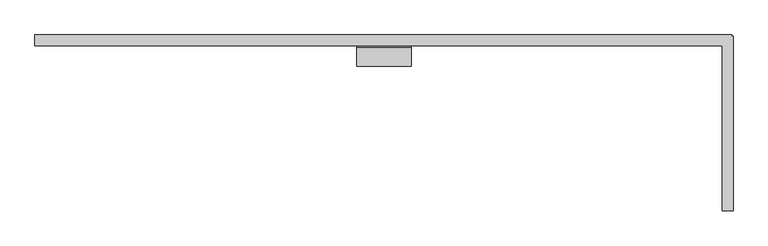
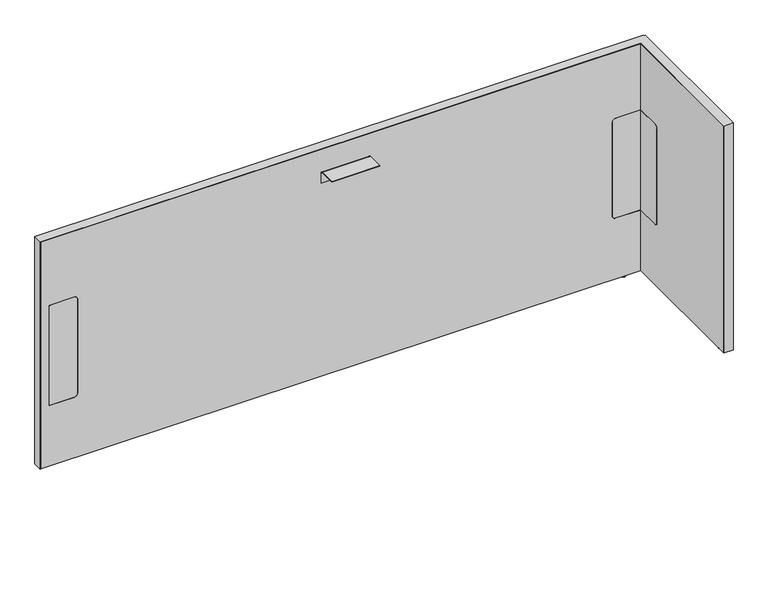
"""IFC4 building model written with IfcOpenShell, lengths in millimetres: furniture geometry, Steelcase - Answer Solution - Boundary Screen - L Return - Single Sided : 30H x 75W."""

from ifc_helpers import new_model, si_unit, point, frame, frame_2d, origin, place, context, project, spatial, polyline, circle_curve, ellipse_curve, trimmed, segment, composite_curve, outline, extrude, faceted_brep, source, transform, mapped, element, save
from ifc_brep_helpers import plane_surface, cylinder_surface, revolved_surface, advanced_brep


def furniture_8e2eddb2(model_context):
    return source(origin(), model_context, "Body", "SolidModel", [
        extrude(outline(composite_curve([segment(polyline([(-109.3501471, 549.6162029), (-29.0550397, 549.6162029), (-29.0550397, 213.7762137), (-109.3501471, 213.7762137)]), True, "CONTINUOUS"), segment(trimmed(circle_curve(frame_2d((-109.3501471, 223.9362137)), 10.16), [point((-109.3501471, 213.7762137))], [point((-119.5101471, 223.9362137))], False, "CARTESIAN"), True, "CONTINUOUS"), segment(polyline([(-119.5101471, 223.9362137), (-119.5101471, 539.4562029)]), True, "CONTINUOUS"), segment(trimmed(circle_curve(frame_2d((-109.3501471, 539.4562029)), 10.16), [point((-119.5101471, 539.4562029))], [point((-109.3501471, 549.6162029))], False, "CARTESIAN"), True, "CONTINUOUS")], self_intersect=False)), frame((2134.8191891, 0.0, 0.0), z_axis=(1.0, 0.0, 0.0), x_axis=(0.0, 1.0, 0.0)), (0.0, 0.0, 1.0), 0.6401544),
        advanced_brep(
        [(2149.6672074, -448.0136072, 0.0), (2156.6216144, -448.0136072, 0.0), (2142.7128003, -448.0136072, 0.0), (2158.0762685, -448.0136072, 1.2700001), (2141.2581463, -448.0136072, 1.2700001), (2158.0762685, -448.0136072, 2.9673238), (2141.2581463, -448.0136072, 2.9673238), (2159.0427877, -448.0136072, 2.9673238), (2140.291627, -448.0136072, 2.9673238), (2159.0427877, -448.0136072, 9.9059849), (2140.291627, -448.0136072, 9.9059849), (2149.6672074, -448.0136072, 9.9059849)],
        [
            (0, 1),
            (1, 2, circle_curve(frame((2149.6672074, -448.0136072, 0.0), z_axis=(0.0, 0.0, -1.0), x_axis=(1.0, 0.0, 0.0)), 6.9544071)),
            (2, 0),
            (2, 1, circle_curve(frame((2149.6672074, -448.0136072, 0.0), z_axis=(0.0, 0.0, -1.0), x_axis=(1.0, 0.0, 0.0)), 6.9544071)),
            (1, 3, circle_curve(frame((2156.7945484, -448.0136072, 1.2700001), z_axis=(0.0, -1.0, 0.0), x_axis=(0.0, 0.0, 1.0)), 1.2817201)),
            (3, 4, circle_curve(frame((2149.6672074, -448.0136072, 1.2700001), z_axis=(0.0, 0.0, -1.0), x_axis=(1.0, 0.0, 0.0)), 8.4090611)),
            (4, 2, circle_curve(frame((2142.5398663, -448.0136072, 1.2700001), z_axis=(0.0, -1.0, 0.0), x_axis=(0.0, 0.0, 1.0)), 1.2817201)),
            (4, 3, circle_curve(frame((2149.6672074, -448.0136072, 1.2700001), z_axis=(0.0, 0.0, -1.0), x_axis=(1.0, 0.0, 0.0)), 8.4090611)),
            (3, 5),
            (5, 6, circle_curve(frame((2149.6672074, -448.0136072, 2.9673238), z_axis=(0.0, 0.0, -1.0), x_axis=(1.0, 0.0, 0.0)), 8.4090611)),
            (6, 4),
            (6, 5, circle_curve(frame((2149.6672074, -448.0136072, 2.9673238), z_axis=(0.0, 0.0, -1.0), x_axis=(1.0, 0.0, 0.0)), 8.4090611)),
            (5, 7),
            (7, 8, circle_curve(frame((2149.6672074, -448.0136072, 2.9673238), z_axis=(0.0, 0.0, -1.0), x_axis=(1.0, 0.0, 0.0)), 9.3755804)),
            (8, 6),
            (8, 7, circle_curve(frame((2149.6672074, -448.0136072, 2.9673238), z_axis=(0.0, 0.0, -1.0), x_axis=(1.0, 0.0, 0.0)), 9.3755804)),
            (7, 9),
            (9, 10, circle_curve(frame((2149.6672074, -448.0136072, 9.9059849), z_axis=(0.0, 0.0, -1.0), x_axis=(1.0, 0.0, 0.0)), 9.3755804)),
            (10, 8),
            (10, 9, circle_curve(frame((2149.6672074, -448.0136072, 9.9059849), z_axis=(0.0, 0.0, -1.0), x_axis=(1.0, 0.0, 0.0)), 9.3755804)),
            (9, 11),
            (11, 10),
        ],
        [
            plane_surface(frame((2149.6672074, -448.0136072, 0.0), z_axis=(0.0, 0.0, -1.0), x_axis=(1.0, 0.0, 0.0))),
            revolved_surface(trimmed(ellipse_curve(frame((2156.7945484, -448.0136072, 1.2700001), z_axis=(0.0, 1.0, 0.0), x_axis=(0.0, 0.0, 1.0)), 1.2817201, 1.2817201), [point((2158.0762685, -448.0136072, 1.2700001))], [point((2156.6216144, -448.0136072, 0.0))], True, "CARTESIAN"), (2149.6672074, -448.0136072, 9.9059849), (0.0, 0.0, -1.0)),
            cylinder_surface(frame((2149.6672074, -448.0136072, 9.9059849), z_axis=(0.0, 0.0, -1.0), x_axis=(1.0, 0.0, 0.0)), 8.4090611),
            plane_surface(frame((2149.6672074, -448.0136072, 2.9673238), z_axis=(0.0, 0.0, -1.0), x_axis=(1.0, 0.0, 0.0))),
            cylinder_surface(frame((2149.6672074, -448.0136072, 9.9059849), z_axis=(0.0, 0.0, -1.0), x_axis=(1.0, 0.0, 0.0)), 9.3755804),
            plane_surface(frame((2149.6672074, -448.0136072, 9.9059849), z_axis=(0.0, 0.0, 1.0), x_axis=(1.0, 0.0, 0.0))),
        ],
        [
            (0, [[1, 2, 3]]),
            (0, [[-3, 4, -1]]),
            (1, [[-2, 5, 6, 7]]),
            (1, [[-4, -7, 8, -5]]),
            (2, [[-6, 9, 10, 11]]),
            (2, [[-8, -11, 12, -9]]),
            (3, [[-10, 13, 14, 15]]),
            (3, [[-12, -15, 16, -13]]),
            (4, [[-14, 17, 18, 19]]),
            (4, [[-16, -19, 20, -17]]),
            (5, [[-18, 21, 22]]),
            (5, [[-20, -22, -21]]),
        ],
    ),
        faceted_brep([(2161.2531179, 0.0, 772.922), (2161.2531179, 0.0, 9.9059849), (2160.2621491, 0.0, 9.9059849), (2160.2621491, 0.0, 771.942118), (230.8097779, 0.0, 771.942118), (230.8097779, 0.0, 9.9059849), (229.8191891, 0.0, 9.9059849), (229.8191891, 0.0, 772.922), (229.8191891, -29.6898332, 772.922), (229.8191891, -29.6898332, 9.9059849), (230.8097779, -29.6898332, 9.9059849), (230.8097779, -29.6898332, 771.942118), (2134.8191891, -29.6898332, 771.942118), (2134.8191891, -29.6898332, 772.922), (2160.2621491, -29.6898332, 771.942118), (2160.2621491, -29.6898332, 9.9059849), (2161.2531179, -29.6898332, 9.9059849), (2161.2531179, -29.6898332, 771.942118), (2161.2531179, -3.2625916, 772.922), (2161.2531179, -3.2625916, 9.9059849), (2161.2531179, -4.252647, 9.9059849), (2161.2531179, -4.252647, 771.942118), (2164.5152256, -3.2625916, 9.9059849), (2164.5152256, -4.252647, 9.9059849), (2160.2621491, -4.252647, 9.9059849), (2134.8191891, -4.252647, 9.9059849), (2134.8191891, -3.2625916, 9.9059849), (2160.2621491, -3.2625916, 9.9059849), (2134.8191891, -486.8898332, 772.922), (2164.5152256, -486.8898332, 772.922), (2164.5152256, -3.2625916, 772.922), (2160.2621491, -3.2625916, 771.942118), (2160.2621491, -4.252647, 771.942118), (2134.8191891, -3.2625916, 771.942118), (2134.8191891, -4.252647, 771.942118), (2164.5152256, -4.252647, 771.942118), (2164.5152256, -485.899196, 771.942118), (2134.8191891, -485.899196, 771.942118), (2134.8191891, -485.899196, 9.9059849), (2134.8191891, -486.8898332, 9.9059849), (2164.5152256, -486.8898332, 9.9059849), (2164.5152256, -485.899196, 9.9059849)], [[[0, 1, 2, 3, 4, 5, 6, 7]], [[8, 9, 10, 11, 12, 13]], [[14, 15, 16, 17]], [[1, 0, 18, 19]], [[17, 16, 20, 21]], [[2, 1, 19, 22, 23, 20, 16, 15, 24, 25, 26, 27]], [[7, 6, 9, 8]], [[0, 7, 8, 13, 28, 29, 30, 18]], [[3, 2, 27, 31]], [[15, 14, 32, 24]], [[4, 3, 31, 33, 34, 32, 14, 17, 21, 35, 36, 37, 12, 11]], [[5, 4, 11, 10]], [[6, 5, 10, 9]], [[26, 25, 34, 33]], [[37, 38, 39, 28, 13, 12]], [[29, 40, 41, 36, 35, 23, 22, 30]], [[27, 26, 33, 31]], [[30, 22, 19, 18]], [[34, 25, 24, 32]], [[23, 35, 21, 20]], [[38, 37, 36, 41]], [[39, 38, 41, 40]], [[28, 39, 40, 29]]]),
        extrude(outline(composite_curve([segment(polyline([(-86.8398151, 696.4680019), (-86.8398151, 698.5), (-34.9450855, 698.5)]), True, "CONTINUOUS"), segment(trimmed(circle_curve(frame_2d((-34.9450855, 693.2447477)), 5.2552523), [point((-34.9450855, 698.5))], [point((-29.6898332, 693.2447477))], False, "CARTESIAN"), True, "CONTINUOUS"), segment(polyline([(-29.6898332, 693.2447477), (-29.6898332, 660.4), (-31.7218162, 660.4), (-31.7218162, 693.0058743)]), True, "CONTINUOUS"), segment(trimmed(circle_curve(frame_2d((-35.1839438, 693.0058743)), 3.4621276), [point((-31.7218162, 693.0058743))], [point((-35.1839438, 696.4680019))], True, "CARTESIAN"), True, "CONTINUOUS"), segment(polyline([(-35.1839438, 696.4680019), (-86.8398151, 696.4680019)]), True, "CONTINUOUS")], self_intersect=False)), frame((1120.9685899, 0.0, 0.0), z_axis=(1.0, 0.0, 0.0), x_axis=(0.0, 1.0, 0.0)), (0.0, 0.0, 1.0), 152.4000969),
        advanced_brep(
        [(2087.3246853, -23.7588726, 9.9059849), (2087.3246853, -5.9309607, 9.9059849), (2087.3246853, -14.8449166, 9.9059849), (2087.3246853, -23.7588726, 2.9673238), (2087.3246853, -5.9309607, 2.9673238), (2087.3246853, -22.7915354, 2.9673238), (2087.3246853, -6.8982978, 2.9673238), (2087.3246853, -22.7915354, 1.6569081), (2087.3246853, -6.8982978, 1.6569081), (2087.3246853, -21.1346274, 0.0), (2087.3246853, -8.5552059, 0.0), (2087.3246853, -14.8449166, 0.0)],
        [
            (0, 1, circle_curve(frame((2087.3246853, -14.8449166, 9.9059849), z_axis=(0.0, 0.0, 1.0), x_axis=(0.0, 1.0, 0.0)), 8.913956)),
            (1, 2),
            (2, 0),
            (1, 0, circle_curve(frame((2087.3246853, -14.8449166, 9.9059849), z_axis=(0.0, 0.0, 1.0), x_axis=(0.0, 1.0, 0.0)), 8.913956)),
            (3, 4, circle_curve(frame((2087.3246853, -14.8449166, 2.9673238), z_axis=(0.0, 0.0, 1.0), x_axis=(0.0, 1.0, 0.0)), 8.913956)),
            (4, 1),
            (0, 3),
            (4, 3, circle_curve(frame((2087.3246853, -14.8449166, 2.9673238), z_axis=(0.0, 0.0, 1.0), x_axis=(0.0, 1.0, 0.0)), 8.913956)),
            (5, 6, circle_curve(frame((2087.3246853, -14.8449166, 2.9673238), z_axis=(0.0, 0.0, 1.0), x_axis=(0.0, 1.0, 0.0)), 7.9466188)),
            (6, 4),
            (3, 5),
            (6, 5, circle_curve(frame((2087.3246853, -14.8449166, 2.9673238), z_axis=(0.0, 0.0, 1.0), x_axis=(0.0, 1.0, 0.0)), 7.9466188)),
            (7, 8, circle_curve(frame((2087.3246853, -14.8449166, 1.6569081), z_axis=(0.0, 0.0, 1.0), x_axis=(0.0, 1.0, 0.0)), 7.9466188)),
            (8, 6),
            (5, 7),
            (8, 7, circle_curve(frame((2087.3246853, -14.8449166, 1.6569081), z_axis=(0.0, 0.0, 1.0), x_axis=(0.0, 1.0, 0.0)), 7.9466188)),
            (9, 10, circle_curve(frame((2087.3246853, -14.8449166, 0.0), z_axis=(0.0, 0.0, 1.0), x_axis=(0.0, 1.0, 0.0)), 6.2897107)),
            (10, 8, circle_curve(frame((2087.3246853, -8.5552059, 1.6569081), z_axis=(1.0, 0.0, 0.0), x_axis=(0.0, 1.0, 0.0)), 1.6569081)),
            (7, 9, circle_curve(frame((2087.3246853, -21.1346274, 1.6569081), z_axis=(1.0, 0.0, 0.0), x_axis=(0.0, -1.0, 0.0)), 1.6569081)),
            (10, 9, circle_curve(frame((2087.3246853, -14.8449166, 0.0), z_axis=(0.0, 0.0, 1.0), x_axis=(0.0, 1.0, 0.0)), 6.2897107)),
            (11, 10),
            (9, 11),
        ],
        [
            plane_surface(frame((2087.3246853, -14.8449166, 9.9059849), z_axis=(0.0, 0.0, 1.0), x_axis=(0.0, 1.0, 0.0))),
            cylinder_surface(frame((2087.3246853, -14.8449166, 9.9059849), z_axis=(0.0, 0.0, -1.0), x_axis=(0.0, 1.0, 0.0)), 8.913956),
            plane_surface(frame((2087.3246853, -14.8449166, 2.9673238), z_axis=(0.0, 0.0, -1.0), x_axis=(0.0, 1.0, 0.0))),
            cylinder_surface(frame((2087.3246853, -14.8449166, 9.9059849), z_axis=(0.0, 0.0, -1.0), x_axis=(0.0, 1.0, 0.0)), 7.9466188),
            revolved_surface(trimmed(ellipse_curve(frame((2087.3246853, -8.5552059, 1.6569081), z_axis=(-1.0, 0.0, 0.0), x_axis=(0.0, 1.0, 0.0)), 1.6569081, 1.6569081), [point((2087.3246853, -6.8982978, 1.6569081))], [point((2087.3246853, -8.5552059, 0.0))], True, "CARTESIAN"), (2087.3246853, -14.8449166, 9.9059849), (0.0, 0.0, -1.0)),
            plane_surface(frame((2087.3246853, -14.8449166, 0.0), z_axis=(0.0, 0.0, -1.0), x_axis=(0.0, 1.0, 0.0))),
        ],
        [
            (0, [[1, 2, 3]]),
            (0, [[4, -3, -2]]),
            (1, [[5, 6, -1, 7]]),
            (1, [[8, -7, -4, -6]]),
            (2, [[9, 10, -5, 11]]),
            (2, [[12, -11, -8, -10]]),
            (3, [[13, 14, -9, 15]]),
            (3, [[16, -15, -12, -14]]),
            (4, [[17, 18, -13, 19]]),
            (4, [[20, -19, -16, -18]]),
            (5, [[21, -17, 22]]),
            (5, [[-22, -20, -21]]),
        ],
    ),
        advanced_brep(
        [(230.8097779, 0.0, 771.942118), (2160.2621491, 0.0, 771.942118), (2160.2621491, 0.0, 9.9059849), (230.8097779, 0.0, 9.9059849), (347.9483813, -29.0550397, 539.4562029), (337.7883813, -29.0550397, 549.6162029), (258.1344836, -29.0550397, 549.6162029), (258.1344836, -29.0550397, 213.7762137), (337.7883813, -29.0550397, 213.7762137), (347.9483813, -29.0550397, 223.9362137), (2135.4593435, -29.0550397, 213.7762137), (2135.4593435, -29.0550397, 549.6162029), (2054.9109268, -29.0550397, 549.6162029), (2044.7509268, -29.0550397, 539.4562029), (2044.7509268, -29.0550397, 223.9362137), (2054.9109268, -29.0550397, 213.7762137), (230.8097779, -29.6898332, 771.942118), (230.8097779, -29.6898332, 9.9059849), (2134.8191891, -29.6898332, 9.9059849), (2134.8191891, -29.6898332, 213.7762137), (2054.9109268, -29.6898332, 213.7762137), (2044.7509268, -29.6898332, 223.9362137), (2044.7509268, -29.6898332, 539.4562029), (2054.9109268, -29.6898332, 549.6162029), (2134.8191891, -29.6898332, 549.6162029), (2134.8191891, -29.6898332, 771.942118), (337.7883813, -29.6898332, 549.6162029), (347.9483813, -29.6898332, 539.4562029), (347.9483813, -29.6898332, 223.9362137), (337.7883813, -29.6898332, 213.7762137), (258.1344836, -29.6898332, 213.7762137), (258.1344836, -29.6898332, 549.6162029), (2160.2621491, -4.252647, 9.9059849), (2164.5152256, -4.252647, 9.9059849), (2164.5152256, -485.899196, 9.9059849), (2134.8191891, -485.899196, 9.9059849), (2160.2621491, -4.252647, 771.942118), (2134.8191891, -485.899196, 771.942118), (2164.5152256, -485.899196, 771.942118), (2164.5152256, -4.252647, 771.942118), (2135.4593435, -109.3501471, 549.6162029), (2134.8191891, -109.3501471, 549.6162029), (2135.4593435, -109.3501471, 213.7762137), (2135.4593435, -119.5101471, 223.9362137), (2135.4593435, -119.5101471, 539.4562029), (2134.8191891, -109.3501471, 213.7762137), (2134.8191891, -119.5101471, 539.4562029), (2134.8191891, -119.5101471, 223.9362137)],
        [
            (0, 1),
            (1, 2),
            (2, 3),
            (3, 0),
            (4, 5, circle_curve(frame((337.7883813, -29.0550397, 539.4562029), z_axis=(0.0, -1.0, 0.0), x_axis=(0.0, 0.0, 1.0)), 10.16)),
            (5, 6),
            (6, 7),
            (7, 8),
            (8, 9, circle_curve(frame((337.7883813, -29.0550397, 223.9362137), z_axis=(0.0, -1.0, 0.0), x_axis=(0.0, 0.0, 1.0)), 10.16)),
            (9, 4),
            (10, 11),
            (11, 12),
            (12, 13, circle_curve(frame((2054.9109268, -29.0550397, 539.4562029), z_axis=(0.0, -1.0, 0.0), x_axis=(0.0, 0.0, 1.0)), 10.16)),
            (13, 14),
            (14, 15, circle_curve(frame((2054.9109268, -29.0550397, 223.9362137), z_axis=(0.0, -1.0, 0.0), x_axis=(0.0, 0.0, 1.0)), 10.16)),
            (15, 10),
            (16, 17),
            (17, 18),
            (18, 19),
            (19, 20),
            (20, 21, circle_curve(frame((2054.9109268, -29.6898332, 223.9362137), z_axis=(0.0, 1.0, 0.0), x_axis=(0.0, 0.0, 1.0)), 10.16)),
            (21, 22),
            (22, 23, circle_curve(frame((2054.9109268, -29.6898332, 539.4562029), z_axis=(0.0, 1.0, 0.0), x_axis=(0.0, 0.0, 1.0)), 10.16)),
            (23, 24),
            (24, 25),
            (25, 16),
            (26, 27, circle_curve(frame((337.7883813, -29.6898332, 539.4562029), z_axis=(0.0, 1.0, 0.0), x_axis=(0.0, 0.0, 1.0)), 10.16)),
            (27, 28),
            (28, 29, circle_curve(frame((337.7883813, -29.6898332, 223.9362137), z_axis=(0.0, 1.0, 0.0), x_axis=(0.0, 0.0, 1.0)), 10.16)),
            (29, 30),
            (30, 31),
            (31, 26),
            (16, 0),
            (3, 17),
            (2, 32),
            (32, 33),
            (33, 34),
            (34, 35),
            (35, 18),
            (1, 36),
            (36, 32),
            (25, 37),
            (37, 38),
            (38, 39),
            (39, 36),
            (26, 5),
            (4, 27),
            (9, 28),
            (8, 29),
            (7, 30),
            (6, 31),
            (11, 40),
            (40, 41),
            (41, 24),
            (23, 12),
            (42, 43, circle_curve(frame((2135.4593435, -109.3501471, 223.9362137), z_axis=(-1.0, 0.0, 0.0), x_axis=(0.0, 1.0, 0.0)), 10.16)),
            (43, 44),
            (44, 40, circle_curve(frame((2135.4593435, -109.3501471, 539.4562029), z_axis=(-1.0, 0.0, 0.0), x_axis=(0.0, 1.0, 0.0)), 10.16)),
            (10, 42),
            (15, 20),
            (19, 45),
            (45, 42),
            (14, 21),
            (13, 22),
            (35, 37),
            (41, 46, circle_curve(frame((2134.8191891, -109.3501471, 539.4562029), z_axis=(1.0, 0.0, 0.0), x_axis=(0.0, 1.0, 0.0)), 10.16)),
            (46, 47),
            (47, 45, circle_curve(frame((2134.8191891, -109.3501471, 223.9362137), z_axis=(1.0, 0.0, 0.0), x_axis=(0.0, 1.0, 0.0)), 10.16)),
            (38, 34),
            (33, 39),
            (44, 46),
            (43, 47),
        ],
        [
            plane_surface(frame((347.9483813, 0.0, 549.6162029), z_axis=(0.0, 1.0, 0.0), x_axis=(0.0, 0.0, -1.0))),
            plane_surface(frame((347.9483813, -29.0550397, 549.6162029), z_axis=(0.0, -1.0, 0.0), x_axis=(0.0, 0.0, 1.0))),
            plane_surface(frame((2160.2621491, -29.6898332, 771.942118), z_axis=(0.0, -1.0, 0.0), x_axis=(-1.0, 0.0, 0.0))),
            plane_surface(frame((230.8097779, 0.0, 9.9059849), z_axis=(-1.0, 0.0, 0.0), x_axis=(0.0, -1.0, 0.0))),
            plane_surface(frame((2160.2621491, 0.0, 9.9059849), z_axis=(0.0, 0.0, -1.0), x_axis=(0.0, -1.0, 0.0))),
            plane_surface(frame((2160.2621491, 0.0, 771.942118), z_axis=(1.0, 0.0, 0.0), x_axis=(0.0, -1.0, 0.0))),
            plane_surface(frame((230.8097779, 0.0, 771.942118), z_axis=(0.0, 0.0, 1.0), x_axis=(0.0, -1.0, 0.0))),
            revolved_surface(polyline([(337.7883813, -29.6898332, 549.6162029), (337.7883813, -29.0550397, 549.6162029)]), (337.7883813, -29.6898332, 539.4562029), (0.0, -1.0, 0.0)),
            plane_surface(frame((347.9483813, 0.0, 223.9362137), z_axis=(-1.0, 0.0, 0.0), x_axis=(0.0, -1.0, 0.0))),
            revolved_surface(polyline([(337.7883813, -29.6898332, 234.0962137), (337.7883813, -29.0550397, 234.0962137)]), (337.7883813, -29.6898332, 223.9362137), (0.0, -1.0, 0.0)),
            plane_surface(frame((258.1344836, 0.0, 213.7762137), z_axis=(0.0, 0.0, 1.0), x_axis=(0.0, -1.0, 0.0))),
            plane_surface(frame((258.1344836, 0.0, 549.6162029), z_axis=(1.0, 0.0, 0.0), x_axis=(0.0, -1.0, 0.0))),
            plane_surface(frame((337.7883813, 0.0, 549.6162029), z_axis=(0.0, 0.0, -1.0), x_axis=(0.0, -1.0, 0.0))),
            plane_surface(frame((2135.4593435, 0.0, 549.6162029), z_axis=(0.0, 0.0, -1.0), x_axis=(0.0, -1.0, 0.0))),
            plane_surface(frame((2135.4593435, 0.0, 213.7762137), z_axis=(-1.0, 0.0, 0.0), x_axis=(0.0, -1.0, 0.0))),
            plane_surface(frame((2054.9109268, 0.0, 213.7762137), z_axis=(0.0, 0.0, 1.0), x_axis=(0.0, -1.0, 0.0))),
            revolved_surface(polyline([(2054.9109268, -29.6898332, 234.0962137), (2054.9109268, -29.0550397, 234.0962137)]), (2054.9109268, -29.6898332, 223.9362137), (0.0, -1.0, 0.0)),
            plane_surface(frame((2044.7509268, 0.0, 539.4562029), z_axis=(1.0, 0.0, 0.0), x_axis=(0.0, -1.0, 0.0))),
            revolved_surface(polyline([(2054.9109268, -29.6898332, 549.6162029), (2054.9109268, -29.0550397, 549.6162029)]), (2054.9109268, -29.6898332, 539.4562029), (0.0, -1.0, 0.0)),
            plane_surface(frame((2134.8191891, -485.899196, 771.942118), z_axis=(-1.0, 0.0, 0.0), x_axis=(0.0, 0.0, 1.0))),
            plane_surface(frame((2164.5152256, -485.899196, 771.942118), z_axis=(1.0, 0.0, 0.0), x_axis=(0.0, 0.0, -1.0))),
            plane_surface(frame((2164.5152256, -4.252647, 9.9059849), z_axis=(0.0, 1.0, 0.0), x_axis=(-1.0, 0.0, 0.0))),
            plane_surface(frame((2164.5152256, -485.899196, 771.942118), z_axis=(0.0, -1.0, 0.0), x_axis=(-1.0, 0.0, 0.0))),
            revolved_surface(polyline([(2134.8191890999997, -99.1901471, 539.4562029), (2135.4593434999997, -99.1901471, 539.4562029)]), (-340.6902705, -109.3501471, 539.4562029), (-1.0, 0.0, 0.0)),
            plane_surface(frame((2164.5152256, -119.5101471, 223.9362137), z_axis=(0.0, 1.0, 0.0), x_axis=(-1.0, 0.0, 0.0))),
            revolved_surface(polyline([(2134.8191890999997, -99.1901471, 223.9362137), (2135.4593434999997, -99.1901471, 223.9362137)]), (-340.6902705, -109.3501471, 223.9362137), (-1.0, 0.0, 0.0)),
        ],
        [
            (0, [[1, 2, 3, 4]]),
            (1, [[5, 6, 7, 8, 9, 10]]),
            (1, [[11, 12, 13, 14, 15, 16]]),
            (2, [[17, 18, 19, 20, 21, 22, 23, 24, 25, 26], [27, 28, 29, 30, 31, 32]]),
            (3, [[-17, 33, -4, 34]]),
            (4, [[-3, 35, 36, 37, 38, 39, -18, -34]]),
            (5, [[-2, 40, 41, -35]]),
            (6, [[-1, -33, -26, 42, 43, 44, 45, -40]]),
            (7, [[-27, 46, -5, 47]]),
            (8, [[-28, -47, -10, 48]]),
            (9, [[-29, -48, -9, 49]]),
            (10, [[-30, -49, -8, 50]]),
            (11, [[-31, -50, -7, 51]]),
            (12, [[-32, -51, -6, -46]]),
            (13, [[52, 53, 54, -24, 55, -12]]),
            (14, [[56, 57, 58, -52, -11, 59]]),
            (15, [[-59, -16, 60, -20, 61, 62]]),
            (16, [[-21, -60, -15, 63]]),
            (17, [[-22, -63, -14, 64]]),
            (18, [[-23, -64, -13, -55]]),
            (19, [[65, -42, -25, -54, 66, 67, 68, -61, -19, -39]]),
            (20, [[69, -37, 70, -44]]),
            (21, [[-70, -36, -41, -45]]),
            (22, [[-65, -38, -69, -43]]),
            (23, [[-66, -53, -58, 71]]),
            (24, [[-67, -71, -57, 72]]),
            (25, [[-68, -72, -56, -62]]),
        ],
    ),
        extrude(outline(composite_curve([segment(polyline([(549.6162029, 337.7883813), (549.6162029, 258.1344836), (213.7762137, 258.1344836), (213.7762137, 337.7883813)]), True, "CONTINUOUS"), segment(trimmed(circle_curve(frame_2d((223.9362137, 337.7883813)), 10.16), [point((213.7762137, 337.7883813))], [point((223.9362137, 347.9483813))], False, "CARTESIAN"), True, "CONTINUOUS"), segment(polyline([(223.9362137, 347.9483813), (539.4562029, 347.9483813)]), True, "CONTINUOUS"), segment(trimmed(circle_curve(frame_2d((539.4562029, 337.7883813)), 10.16), [point((539.4562029, 347.9483813))], [point((549.6162029, 337.7883813))], False, "CARTESIAN"), True, "CONTINUOUS")], self_intersect=False)), frame((0.0, -29.6898332, 0.0), z_axis=(0.0, 1.0, 0.0), x_axis=(0.0, 0.0, 1.0)), (0.0, 0.0, 1.0), 0.6347935),
        extrude(outline(composite_curve([segment(trimmed(circle_curve(frame_2d((539.4562029, 2054.9109268)), 10.16), [point((549.6162029, 2054.9109268))], [point((539.4562029, 2044.7509268))], False, "CARTESIAN"), True, "CONTINUOUS"), segment(polyline([(539.4562029, 2044.7509268), (223.9362137, 2044.7509268)]), True, "CONTINUOUS"), segment(trimmed(circle_curve(frame_2d((223.9362137, 2054.9109268)), 10.16), [point((223.9362137, 2044.7509268))], [point((213.7762137, 2054.9109268))], False, "CARTESIAN"), True, "CONTINUOUS"), segment(polyline([(213.7762137, 2054.9109268), (213.7762137, 2134.8191891), (549.6162029, 2134.8191891), (549.6162029, 2054.9109268)]), True, "CONTINUOUS")], self_intersect=False)), frame((0.0, -29.6898332, 0.0), z_axis=(0.0, 1.0, 0.0), x_axis=(0.0, 0.0, 1.0)), (0.0, 0.0, 1.0), 0.6347935),
    ])


if __name__ == "__main__":
    model = new_model("IFC4")
    model_context = context("Model", 3, world=origin())
    ifc_project = project(units=[si_unit("LENGTHUNIT", "METRE", prefix="MILLI")], contexts=[model_context])
    site = spatial("IfcSite", under=ifc_project)
    building = spatial("IfcBuilding", under=site)
    placement = place(None, origin())
    furniture_shape = furniture_8e2eddb2(model_context)
    element("IfcFurniture", 1, ObjectType="Steelcase - Answer Solution - Boundary Screen - L Return - Single Sided : 30H x 75W", at=placement, inside=building, context=model_context, shape_type="MappedRepresentation", body=[
        mapped(furniture_shape, transform((0.0, 0.0, 0.0), x_axis=(1.0, 0.0, 0.0), y_axis=(0.0, 1.0, 0.0), z_axis=(0.0, 0.0, 1.0))),
    ])
    save(model, "model.ifc")
